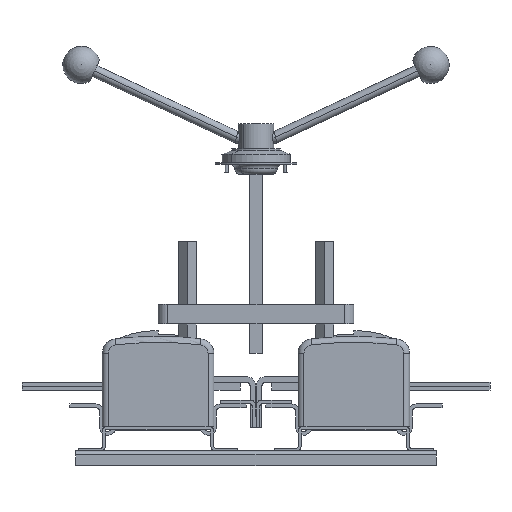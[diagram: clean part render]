
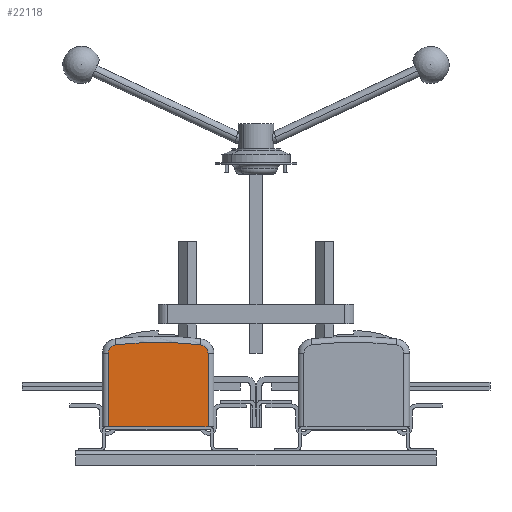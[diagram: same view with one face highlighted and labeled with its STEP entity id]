
A CAD part, left-side view. The second image highlights one B-rep face of the part: STEP entity #22118.
In plain terms, the highlighted planar face has unit normal (-1, 0, 0).
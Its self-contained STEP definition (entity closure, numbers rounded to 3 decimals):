
#625 = CARTESIAN_POINT ( 'NONE',  ( -249., 143.036, 123.516 ) ) ;
#819 = DIRECTION ( 'NONE',  ( 1., 0., 0. ) ) ;
#2182 = AXIS2_PLACEMENT_3D ( 'NONE', #7908, #27601, #3396 ) ;
#3080 = EDGE_LOOP ( 'NONE', ( #12348, #14379, #23629, #12358, #21209, #26022 ) ) ;
#3396 = DIRECTION ( 'NONE',  ( 0., 0., -1. ) ) ;
#4364 = CARTESIAN_POINT ( 'NONE',  ( -249., 49., 114.576 ) ) ;
#4872 = EDGE_CURVE ( 'NONE', #16657, #28527, #21247, .T. ) ;
#4933 = CARTESIAN_POINT ( 'NONE',  ( -249., 49., -248. ) ) ;
#7768 = CARTESIAN_POINT ( 'NONE',  ( -249., 151., 40. ) ) ;
#7840 = CARTESIAN_POINT ( 'NONE',  ( -249., 151., -248. ) ) ;
#7908 = CARTESIAN_POINT ( 'NONE',  ( -249., 58., 114.576 ) ) ;
#7972 = PLANE ( 'NONE',  #17703 ) ;
#10011 = DIRECTION ( 'NONE',  ( -1., 0., 0. ) ) ;
#10179 = EDGE_CURVE ( 'NONE', #29197, #18669, #22128, .T. ) ;
#12009 = EDGE_CURVE ( 'NONE', #21694, #29197, #15015, .T. ) ;
#12348 = ORIENTED_EDGE ( 'NONE', *, *, #21386, .F. ) ;
#12358 = ORIENTED_EDGE ( 'NONE', *, *, #20494, .T. ) ;
#12653 = CARTESIAN_POINT ( 'NONE',  ( -249., 100., -248. ) ) ;
#12805 = CIRCLE ( 'NONE', #16413, 374. ) ;
#14379 = ORIENTED_EDGE ( 'NONE', *, *, #4872, .T. ) ;
#14651 = DIRECTION ( 'NONE',  ( 0., 0., -1. ) ) ;
#14736 = LINE ( 'NONE', #30929, #23143 ) ;
#15015 = CIRCLE ( 'NONE', #26586, 9. ) ;
#15054 = DIRECTION ( 'NONE',  ( -1., 0., 0. ) ) ;
#15468 = VECTOR ( 'NONE', #17088, 1000. ) ;
#16189 = FACE_OUTER_BOUND ( 'NONE', #3080, .T. ) ;
#16413 = AXIS2_PLACEMENT_3D ( 'NONE', #12653, #15054, #29906 ) ;
#16657 = VERTEX_POINT ( 'NONE', #20838 ) ;
#17088 = DIRECTION ( 'NONE',  ( 0., 0., 1. ) ) ;
#17703 = AXIS2_PLACEMENT_3D ( 'NONE', #20576, #819, #17981 ) ;
#17981 = DIRECTION ( 'NONE',  ( 0., 0., -1. ) ) ;
#18669 = VERTEX_POINT ( 'NONE', #7768 ) ;
#18791 = DIRECTION ( 'NONE',  ( 0., 1., 0. ) ) ;
#20494 = EDGE_CURVE ( 'NONE', #24369, #21694, #12805, .T. ) ;
#20576 = CARTESIAN_POINT ( 'NONE',  ( -249., 100., -248. ) ) ;
#20838 = CARTESIAN_POINT ( 'NONE',  ( -249., 49., 40. ) ) ;
#21209 = ORIENTED_EDGE ( 'NONE', *, *, #12009, .T. ) ;
#21247 = LINE ( 'NONE', #4933, #15468 ) ;
#21386 = EDGE_CURVE ( 'NONE', #16657, #18669, #14736, .T. ) ;
#21694 = VERTEX_POINT ( 'NONE', #625 ) ;
#21954 = CARTESIAN_POINT ( 'NONE',  ( -249., 151., 114.576 ) ) ;
#22118 = ADVANCED_FACE ( 'NONE', ( #16189 ), #7972, .F. ) ;
#22128 = LINE ( 'NONE', #7840, #22914 ) ;
#22914 = VECTOR ( 'NONE', #29565, 1000. ) ;
#23143 = VECTOR ( 'NONE', #18791, 1000. ) ;
#23629 = ORIENTED_EDGE ( 'NONE', *, *, #26941, .T. ) ;
#24369 = VERTEX_POINT ( 'NONE', #30202 ) ;
#24515 = CARTESIAN_POINT ( 'NONE',  ( -249., 142., 114.576 ) ) ;
#26022 = ORIENTED_EDGE ( 'NONE', *, *, #10179, .T. ) ;
#26586 = AXIS2_PLACEMENT_3D ( 'NONE', #24515, #10011, #14651 ) ;
#26941 = EDGE_CURVE ( 'NONE', #28527, #24369, #28114, .T. ) ;
#27601 = DIRECTION ( 'NONE',  ( -1., 0., 0. ) ) ;
#28114 = CIRCLE ( 'NONE', #2182, 9. ) ;
#28527 = VERTEX_POINT ( 'NONE', #4364 ) ;
#29197 = VERTEX_POINT ( 'NONE', #21954 ) ;
#29565 = DIRECTION ( 'NONE',  ( 0., 0., -1. ) ) ;
#29906 = DIRECTION ( 'NONE',  ( 0., 0., -1. ) ) ;
#30202 = CARTESIAN_POINT ( 'NONE',  ( -249., 56.964, 123.516 ) ) ;
#30929 = CARTESIAN_POINT ( 'NONE',  ( -249., 157., 40. ) ) ;
